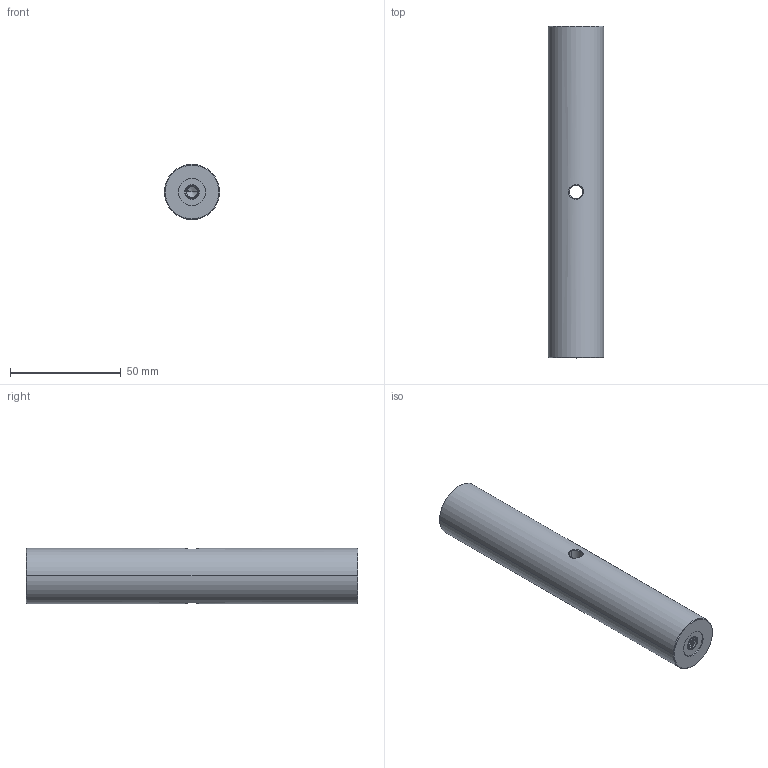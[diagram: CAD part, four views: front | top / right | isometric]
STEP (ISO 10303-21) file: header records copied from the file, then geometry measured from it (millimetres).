
FILE_DESCRIPTION((''),'2;1');
FILE_NAME('CFJP150-S','2020-10-30T',('Administrator'),(''),'CREO PARAMETRIC BY PTC INC, 2015290','CREO PARAMETRIC BY PTC INC, 2015290','');
FILE_SCHEMA(('CONFIG_CONTROL_DESIGN'));
Length unit declared in the file: millimetre
Products named in the file (1): CFJP150-S
Bounding box: 25 x 150 x 25 mm (x, y, z)
Volume: 72104.9 mm3; surface area: 13803.2 mm2
Topology: 1 solids, 1 shells, 96 faces, 252 edges, 158 vertices
Faces by surface type: cylinder 56, bspline 24, cone 12, plane 4
Entity records: 6590 total; most frequent: CARTESIAN_POINT 4518, ORIENTED_EDGE 496, DIRECTION 290, EDGE_CURVE 248, VERTEX_POINT 158, B_SPLINE_CURVE_WITH_KNOTS 130, EDGE_LOOP 102, AXIS2_PLACEMENT_3D 100
